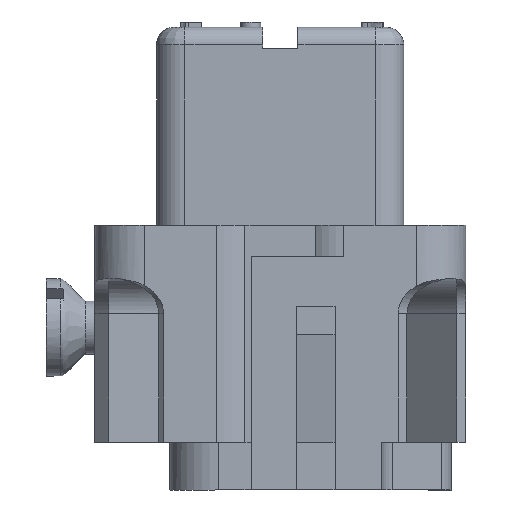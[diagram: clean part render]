
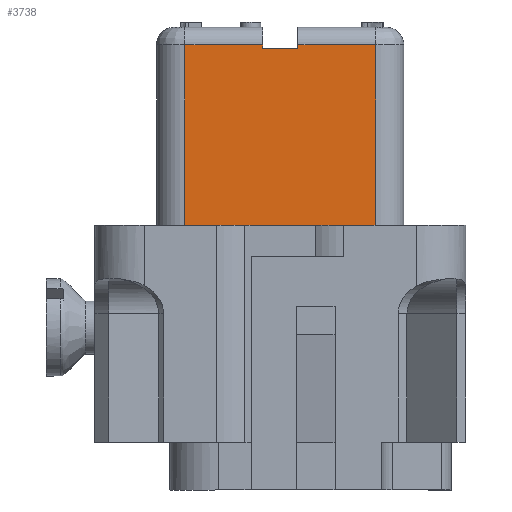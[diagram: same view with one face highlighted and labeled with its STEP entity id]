
A CAD part, front view. The second image highlights one B-rep face of the part: STEP entity #3738.
In plain terms, the highlighted planar face has unit normal (0, -1, 0).
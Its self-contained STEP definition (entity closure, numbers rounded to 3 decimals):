
#3738=ADVANCED_FACE('',(#4468),#4156,.T.);
#4156=PLANE('',#12106);
#4468=FACE_OUTER_BOUND('',#4935,.T.);
#4935=EDGE_LOOP('',(#6022,#6023,#6024,#6025,#6026,#6027,#6028,#6029));
#6022=ORIENTED_EDGE('',*,*,#9112,.T.);
#6023=ORIENTED_EDGE('',*,*,#9113,.T.);
#6024=ORIENTED_EDGE('',*,*,#9110,.T.);
#6025=ORIENTED_EDGE('',*,*,#9108,.T.);
#6026=ORIENTED_EDGE('',*,*,#9084,.T.);
#6027=ORIENTED_EDGE('',*,*,#8965,.F.);
#6028=ORIENTED_EDGE('',*,*,#9053,.F.);
#6029=ORIENTED_EDGE('',*,*,#9114,.T.);
#8113=VERTEX_POINT('',#16181);
#8114=VERTEX_POINT('',#16183);
#8169=VERTEX_POINT('',#16550);
#8187=VERTEX_POINT('',#16721);
#8199=VERTEX_POINT('',#16856);
#8200=VERTEX_POINT('',#16860);
#8201=VERTEX_POINT('',#16864);
#8202=VERTEX_POINT('',#16865);
#8965=EDGE_CURVE('',#8113,#8114,#10028,.T.);
#9053=EDGE_CURVE('',#8169,#8113,#10079,.T.);
#9084=EDGE_CURVE('',#8187,#8114,#10102,.T.);
#9108=EDGE_CURVE('',#8199,#8187,#10114,.T.);
#9110=EDGE_CURVE('',#8200,#8199,#10115,.T.);
#9112=EDGE_CURVE('',#8201,#8202,#10117,.T.);
#9113=EDGE_CURVE('',#8202,#8200,#10118,.T.);
#9114=EDGE_CURVE('',#8169,#8201,#10119,.T.);
#10028=LINE('',#16182,#10815);
#10079=LINE('',#16579,#10866);
#10102=LINE('',#16722,#10889);
#10114=LINE('',#16855,#10901);
#10115=LINE('',#16859,#10902);
#10117=LINE('',#16863,#10904);
#10118=LINE('',#16866,#10905);
#10119=LINE('',#16867,#10906);
#10815=VECTOR('',#12927,1.);
#10866=VECTOR('',#13076,1.);
#10889=VECTOR('',#13127,1.);
#10901=VECTOR('',#13175,1.);
#10902=VECTOR('',#13180,1.);
#10904=VECTOR('',#13184,1.);
#10905=VECTOR('',#13185,1.);
#10906=VECTOR('',#13186,1.);
#12106=AXIS2_PLACEMENT_3D('',#16868,#13187,#13188);
#12927=DIRECTION('',(-1.,0.,0.));
#13076=DIRECTION('',(0.,0.,-1.));
#13127=DIRECTION('',(0.,0.,-1.));
#13175=DIRECTION('',(-1.,0.,0.));
#13180=DIRECTION('',(0.,0.,1.));
#13184=DIRECTION('',(0.,0.,-1.));
#13185=DIRECTION('',(-1.,0.,0.));
#13186=DIRECTION('',(-1.,0.,0.));
#13187=DIRECTION('',(0.,-1.,0.));
#13188=DIRECTION('',(-1.,0.,0.));
#16181=CARTESIAN_POINT('',(5.4,-7.,5.8));
#16182=CARTESIAN_POINT('',(5.4,-7.,5.8));
#16183=CARTESIAN_POINT('',(-5.4,-7.,5.8));
#16550=CARTESIAN_POINT('',(5.4,-7.,16.));
#16579=CARTESIAN_POINT('',(5.4,-7.,16.));
#16721=CARTESIAN_POINT('',(-5.4,-7.,16.));
#16722=CARTESIAN_POINT('',(-5.4,-7.,16.));
#16855=CARTESIAN_POINT('',(-1.,-7.,16.));
#16856=CARTESIAN_POINT('',(-1.,-7.,16.));
#16859=CARTESIAN_POINT('',(-1.,-7.,15.8));
#16860=CARTESIAN_POINT('',(-1.,-7.,15.8));
#16863=CARTESIAN_POINT('',(1.,-7.,16.));
#16864=CARTESIAN_POINT('',(1.,-7.,16.));
#16865=CARTESIAN_POINT('',(1.,-7.,15.8));
#16866=CARTESIAN_POINT('',(1.,-7.,15.8));
#16867=CARTESIAN_POINT('',(5.4,-7.,16.));
#16868=CARTESIAN_POINT('',(5.4,-7.,17.));
